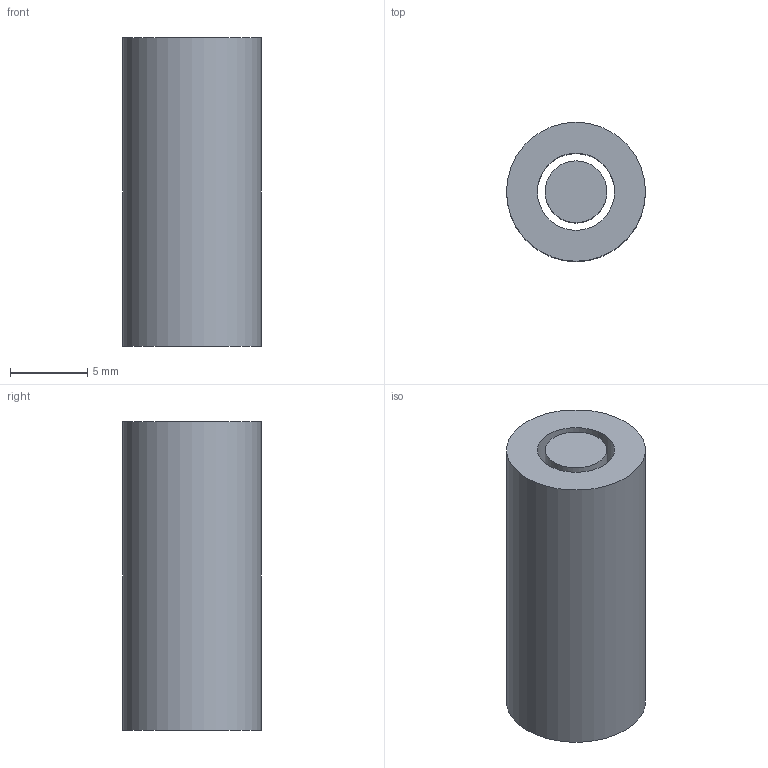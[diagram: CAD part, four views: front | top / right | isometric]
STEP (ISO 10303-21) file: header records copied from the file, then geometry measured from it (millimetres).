
FILE_DESCRIPTION(('Open CASCADE Model'),'2;1');
FILE_NAME('Open CASCADE Shape Model','2026-10-28T05:15:08',('Author'),( 'Open CASCADE'),'Open CASCADE STEP processor 7.8','Open CASCADE 7.8' ,'Unknown');
FILE_SCHEMA(('AUTOMOTIVE_DESIGN { 1 0 10303 214 1 1 1 1 }'));
Length unit declared in the file: millimetre
Products named in the file (3): radius-2.5mm; chamber-body; reference-probe
Assembly tree (2 placements, depth 2):
  radius-2.5mm
    chamber-body
    reference-probe
Bounding box: 9 x 9 x 20 mm (x, y, z)
Volume: 1131 mm3; surface area: 1244.1 mm2
Topology: 2 solids, 2 shells, 7 faces, 9 edges, 6 vertices
Faces by surface type: plane 4, cylinder 3
Full cylindrical faces by diameter (mm): 4 x1, 5 x1, 9 x1
Entity records: 332 total; most frequent: DIRECTION 53, CARTESIAN_POINT 43, ORIENTED_EDGE 18, PCURVE 18, DEFINITIONAL_REPRESENTATION 18, AXIS2_PLACEMENT_3D 16, LINE 15, VECTOR 15
